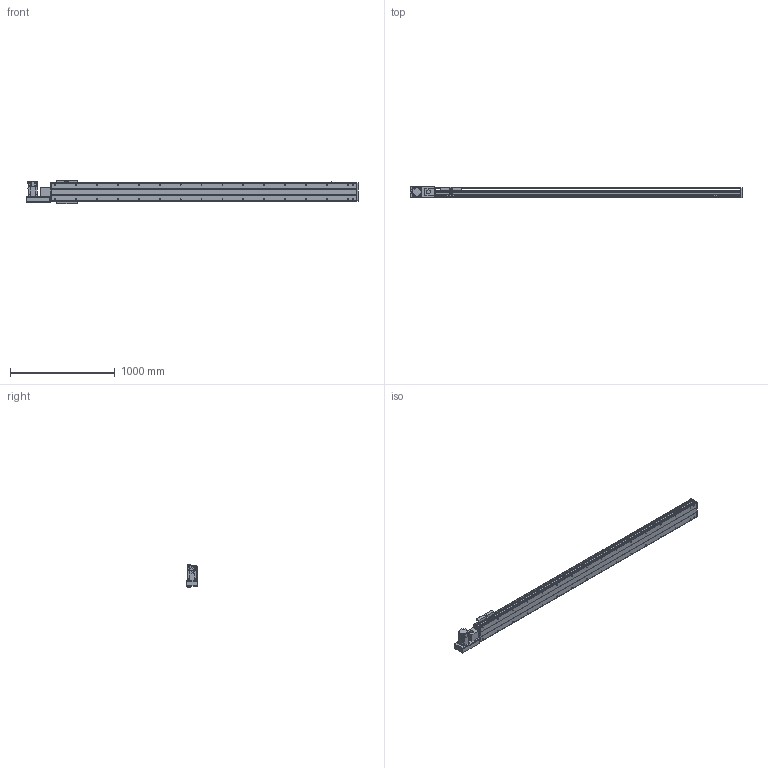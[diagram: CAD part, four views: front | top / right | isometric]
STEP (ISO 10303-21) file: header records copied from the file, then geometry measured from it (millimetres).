
FILE_DESCRIPTION(/* description */ ('STEP AP214'),/* implementation_level */ '2;1');
FILE_NAME(/* name */ 'PBS200-P40-S2550-L-T75-C1-N(0)',/* time_stamp */ '2022-06-11T07:50:56+02:00',/* author */ ('License CC BY-ND 4.0'),/* organization */ ('CADENAS'),/* preprocessor_version */ 'ST-DEVELOPER v18.102',/* originating_system */ 'PARTsolutions',/* authorisation */ ' ');
FILE_SCHEMA (('AUTOMOTIVE_DESIGN {1 0 10303 214 3 1 1}'));
Length unit declared in the file: millimetre
Products named in the file (7): PBS200-P40-S2550-L-T75-C1-N(0); PBS200_sensor; PBS200_plant; PBS200_sliser; T75-p1; PBS200T-L_motors; PBS200-S2550()_body
Assembly tree (8 placements, depth 2):
  PBS200-P40-S2550-L-T75-C1-N(0)
    PBS200_sensor  x3
    PBS200_plant
    PBS200_sliser
    T75-p1
    PBS200T-L_motors
    PBS200-S2550()_body
Bounding box: 3172 x 109 x 221 mm (x, y, z)
Volume: 20915744.8 mm3; surface area: 3345806.8 mm2
Topology: 8 solids, 8 shells, 968 faces, 2454 edges, 1596 vertices
Faces by surface type: plane 590, cylinder 314, cone 64
Full cylindrical faces by diameter (mm): 2.459 x6, 3.242 x4, 4.5 x6, 4.917 x4, 5 x6, 6 x7, 6.6 x8, 6.647 x36, 8 x6, 10 x4, 12 x8, 38 x2, 40 x1, 70 x1
Entity records: 25541 total; most frequent: DIRECTION 4519, CARTESIAN_POINT 4336, ORIENTED_EDGE 4078, EDGE_CURVE 2039, AXIS2_PLACEMENT_3D 1603, VERTEX_POINT 1420, LINE 1313, VECTOR 1313
